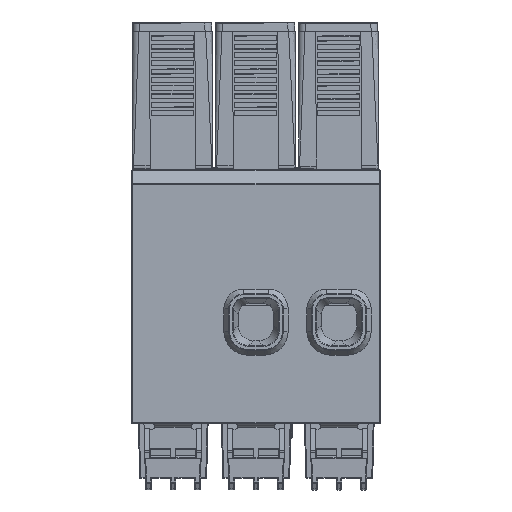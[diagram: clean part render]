
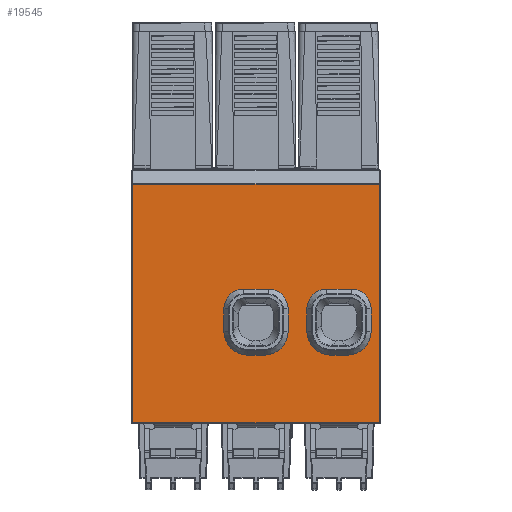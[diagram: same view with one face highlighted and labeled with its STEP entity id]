
A CAD part, front view. The second image highlights one B-rep face of the part: STEP entity #19545.
In plain terms, the highlighted planar face has unit normal (0, -1, 0) as drawn and (1, 0, 0) by its records, which use the part's own axes.
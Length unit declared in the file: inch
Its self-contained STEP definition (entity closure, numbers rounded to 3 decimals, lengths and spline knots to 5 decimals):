
#19545=ADVANCED_FACE('',(#55607,#55608,#55609),#55610,.F.);
#24663=EDGE_CURVE('',#62943,#62944,#62945,.T.);
#24669=EDGE_CURVE('',#62951,#62944,#62952,.T.);
#24673=EDGE_CURVE('',#62956,#62951,#62957,.T.);
#24679=EDGE_CURVE('',#62961,#62956,#62964,.T.);
#24681=EDGE_CURVE('',#62961,#62966,#62967,.T.);
#24685=EDGE_CURVE('',#62966,#62971,#62972,.T.);
#24689=EDGE_CURVE('',#62971,#62976,#62977,.T.);
#24693=EDGE_CURVE('',#62976,#62943,#62981,.T.);
#24695=EDGE_CURVE('',#62983,#62984,#62985,.T.);
#24701=EDGE_CURVE('',#62991,#62984,#62992,.T.);
#24705=EDGE_CURVE('',#62996,#62991,#62997,.T.);
#24711=EDGE_CURVE('',#63001,#62996,#63004,.T.);
#24713=EDGE_CURVE('',#63001,#63006,#63007,.T.);
#24717=EDGE_CURVE('',#63006,#63011,#63012,.T.);
#24721=EDGE_CURVE('',#63011,#63016,#63017,.T.);
#24725=EDGE_CURVE('',#63016,#62983,#63021,.T.);
#24729=EDGE_CURVE('',#62177,#63023,#63026,.T.);
#24733=EDGE_CURVE('',#62242,#62177,#63030,.T.);
#24775=EDGE_CURVE('',#63081,#62242,#63082,.T.);
#25453=EDGE_CURVE('',#63023,#63081,#63967,.T.);
#55607=FACE_OUTER_BOUND('',#107520,.T.);
#55608=FACE_BOUND('',#107521,.T.);
#55609=FACE_BOUND('',#107522,.T.);
#55610=PLANE('',#107523);
#62177=VERTEX_POINT('',#118173);
#62242=VERTEX_POINT('',#118270);
#62943=VERTEX_POINT('',#119423);
#62944=VERTEX_POINT('',#119424);
#62945=CIRCLE('',#119425,0.17009);
#62951=VERTEX_POINT('',#119436);
#62952=LINE('',#119437,#119438);
#62956=VERTEX_POINT('',#119445);
#62957=CIRCLE('',#119446,0.17009);
#62961=VERTEX_POINT('',#119453);
#62964=LINE('',#119458,#119459);
#62966=VERTEX_POINT('',#119462);
#62967=CIRCLE('',#119463,0.20552);
#62971=VERTEX_POINT('',#119470);
#62972=LINE('',#119471,#119472);
#62976=VERTEX_POINT('',#119479);
#62977=CIRCLE('',#119480,0.20552);
#62981=LINE('',#119487,#119488);
#62983=VERTEX_POINT('',#119491);
#62984=VERTEX_POINT('',#119492);
#62985=CIRCLE('',#119493,0.17009);
#62991=VERTEX_POINT('',#119504);
#62992=LINE('',#119505,#119506);
#62996=VERTEX_POINT('',#119513);
#62997=CIRCLE('',#119514,0.17009);
#63001=VERTEX_POINT('',#119521);
#63004=LINE('',#119526,#119527);
#63006=VERTEX_POINT('',#119530);
#63007=CIRCLE('',#119531,0.20552);
#63011=VERTEX_POINT('',#119538);
#63012=LINE('',#119539,#119540);
#63016=VERTEX_POINT('',#119547);
#63017=CIRCLE('',#119548,0.20552);
#63021=LINE('',#119555,#119556);
#63023=VERTEX_POINT('',#119559);
#63026=LINE('',#119563,#119564);
#63030=LINE('',#119571,#119572);
#63081=VERTEX_POINT('',#119655);
#63082=LINE('',#119656,#119657);
#63967=LINE('',#121173,#121174);
#107520=EDGE_LOOP('',(#189749,#189750,#189751,#189752));
#107521=EDGE_LOOP('',(#189753,#189754,#189755,#189756,#189757,#189758,#189759,#189760));
#107522=EDGE_LOOP('',(#189761,#189762,#189763,#189764,#189765,#189766,#189767,#189768));
#107523=AXIS2_PLACEMENT_3D('',#189769,#189770,#189771);
#118173=CARTESIAN_POINT('',(4.7252,1.61023,1.75984));
#118270=CARTESIAN_POINT('',(4.7252,1.61023,-0.34252));
#119423=CARTESIAN_POINT('',(4.7252,0.54512,0.4344));
#119424=CARTESIAN_POINT('',(4.7252,0.71521,0.60449));
#119425=AXIS2_PLACEMENT_3D('',#200567,#200568,#200569);
#119436=CARTESIAN_POINT('',(4.7252,0.71521,0.81283));
#119437=CARTESIAN_POINT('',(4.7252,0.71521,-0.28937));
#119438=VECTOR('',#200572,1000.0);
#119445=CARTESIAN_POINT('',(4.7252,0.54512,0.98292));
#119446=AXIS2_PLACEMENT_3D('',#200574,#200575,#200576);
#119453=CARTESIAN_POINT('',(4.7252,0.35646,0.98292));
#119458=CARTESIAN_POINT('',(4.7252,1.32335,0.98292));
#119459=VECTOR('',#200579,1000.0);
#119462=CARTESIAN_POINT('',(4.7252,0.15093,0.7774));
#119463=AXIS2_PLACEMENT_3D('',#200580,#200581,#200582);
#119470=CARTESIAN_POINT('',(4.7252,0.15093,0.63992));
#119471=CARTESIAN_POINT('',(4.7252,0.15093,1.06299));
#119472=VECTOR('',#200584,1000.0);
#119479=CARTESIAN_POINT('',(4.7252,0.35646,0.4344));
#119480=AXIS2_PLACEMENT_3D('',#200586,#200587,#200588);
#119487=CARTESIAN_POINT('',(4.7252,0.5913,0.4344));
#119488=VECTOR('',#200590,1000.0);
#119491=CARTESIAN_POINT('',(4.7252,0.54512,-0.27426));
#119492=CARTESIAN_POINT('',(4.7252,0.71521,-0.10417));
#119493=AXIS2_PLACEMENT_3D('',#200591,#200592,#200593);
#119504=CARTESIAN_POINT('',(4.7252,0.71521,0.10417));
#119505=CARTESIAN_POINT('',(4.7252,0.71521,-0.28937));
#119506=VECTOR('',#200596,1000.0);
#119513=CARTESIAN_POINT('',(4.7252,0.54512,0.27426));
#119514=AXIS2_PLACEMENT_3D('',#200598,#200599,#200600);
#119521=CARTESIAN_POINT('',(4.7252,0.35646,0.27426));
#119526=CARTESIAN_POINT('',(4.7252,1.32335,0.27426));
#119527=VECTOR('',#200603,1000.0);
#119530=CARTESIAN_POINT('',(4.7252,0.15093,0.06874));
#119531=AXIS2_PLACEMENT_3D('',#200604,#200605,#200606);
#119538=CARTESIAN_POINT('',(4.7252,0.15093,-0.06874));
#119539=CARTESIAN_POINT('',(4.7252,0.15093,1.06299));
#119540=VECTOR('',#200608,1000.0);
#119547=CARTESIAN_POINT('',(4.7252,0.35646,-0.27426));
#119548=AXIS2_PLACEMENT_3D('',#200610,#200611,#200612);
#119555=CARTESIAN_POINT('',(4.7252,0.23622,-0.27426));
#119556=VECTOR('',#200614,1000.0);
#119559=CARTESIAN_POINT('',(4.7252,-0.4252,1.75984));
#119563=CARTESIAN_POINT('',(4.7252,0.00787,1.75984));
#119564=VECTOR('',#200618,1000.0);
#119571=CARTESIAN_POINT('',(4.7252,1.61023,1.76772));
#119572=VECTOR('',#200620,1000.0);
#119655=CARTESIAN_POINT('',(4.7252,-0.4252,-0.34252));
#119656=CARTESIAN_POINT('',(4.7252,1.32335,-0.34252));
#119657=VECTOR('',#200659,1000.0);
#121173=CARTESIAN_POINT('',(4.7252,-0.4252,2.47638));
#121174=VECTOR('',#201202,1000.0);
#189749=ORIENTED_EDGE('',*,*,#25453,.T.);
#189750=ORIENTED_EDGE('',*,*,#24775,.T.);
#189751=ORIENTED_EDGE('',*,*,#24733,.T.);
#189752=ORIENTED_EDGE('',*,*,#24729,.T.);
#189753=ORIENTED_EDGE('',*,*,#24725,.F.);
#189754=ORIENTED_EDGE('',*,*,#24721,.F.);
#189755=ORIENTED_EDGE('',*,*,#24717,.F.);
#189756=ORIENTED_EDGE('',*,*,#24713,.F.);
#189757=ORIENTED_EDGE('',*,*,#24711,.T.);
#189758=ORIENTED_EDGE('',*,*,#24705,.T.);
#189759=ORIENTED_EDGE('',*,*,#24701,.T.);
#189760=ORIENTED_EDGE('',*,*,#24695,.F.);
#189761=ORIENTED_EDGE('',*,*,#24693,.F.);
#189762=ORIENTED_EDGE('',*,*,#24689,.F.);
#189763=ORIENTED_EDGE('',*,*,#24685,.F.);
#189764=ORIENTED_EDGE('',*,*,#24681,.F.);
#189765=ORIENTED_EDGE('',*,*,#24679,.T.);
#189766=ORIENTED_EDGE('',*,*,#24673,.T.);
#189767=ORIENTED_EDGE('',*,*,#24669,.T.);
#189768=ORIENTED_EDGE('',*,*,#24663,.F.);
#189769=CARTESIAN_POINT('',(4.7252,1.32335,-0.28937));
#189770=DIRECTION('',(-1.0,0.0,0.0));
#189771=DIRECTION('',(0.0,-1.0,0.0));
#200567=CARTESIAN_POINT('',(4.7252,0.54512,0.60449));
#200568=DIRECTION('',(1.0,0.0,-0.0));
#200569=DIRECTION('',(0.0,0.0,1.0));
#200572=DIRECTION('',(0.0,0.,-1.0));
#200574=CARTESIAN_POINT('',(4.7252,0.54512,0.81283));
#200575=DIRECTION('',(-1.0,0.0,0.0));
#200576=DIRECTION('',(0.0,0.0,1.0));
#200579=DIRECTION('',(0.0,1.0,0.));
#200580=CARTESIAN_POINT('',(4.7252,0.35646,0.7774));
#200581=DIRECTION('',(1.0,0.0,-0.0));
#200582=DIRECTION('',(0.0,0.0,1.0));
#200584=DIRECTION('',(0.0,0.,-1.0));
#200586=CARTESIAN_POINT('',(4.7252,0.35646,0.63992));
#200587=DIRECTION('',(1.0,0.0,-0.0));
#200588=DIRECTION('',(0.0,0.0,1.0));
#200590=DIRECTION('',(0.0,1.0,0.));
#200591=CARTESIAN_POINT('',(4.7252,0.54512,-0.10417));
#200592=DIRECTION('',(1.0,0.0,0.0));
#200593=DIRECTION('',(0.0,0.0,-1.0));
#200596=DIRECTION('',(0.0,0.,-1.0));
#200598=CARTESIAN_POINT('',(4.7252,0.54512,0.10417));
#200599=DIRECTION('',(-1.0,0.0,0.0));
#200600=DIRECTION('',(0.0,0.0,1.0));
#200603=DIRECTION('',(0.0,1.0,0.));
#200604=CARTESIAN_POINT('',(4.7252,0.35646,0.06874));
#200605=DIRECTION('',(1.0,0.0,-0.0));
#200606=DIRECTION('',(0.0,0.0,1.0));
#200608=DIRECTION('',(0.0,0.,-1.0));
#200610=CARTESIAN_POINT('',(4.7252,0.35646,-0.06874));
#200611=DIRECTION('',(1.0,0.0,-0.0));
#200612=DIRECTION('',(0.0,0.0,1.0));
#200614=DIRECTION('',(0.0,1.0,0.));
#200618=DIRECTION('',(0.0,-1.0,0.0));
#200620=DIRECTION('',(0.0,0.0,1.0));
#200659=DIRECTION('',(0.0,1.0,0.0));
#201202=DIRECTION('',(0.0,0.0,-1.0));
